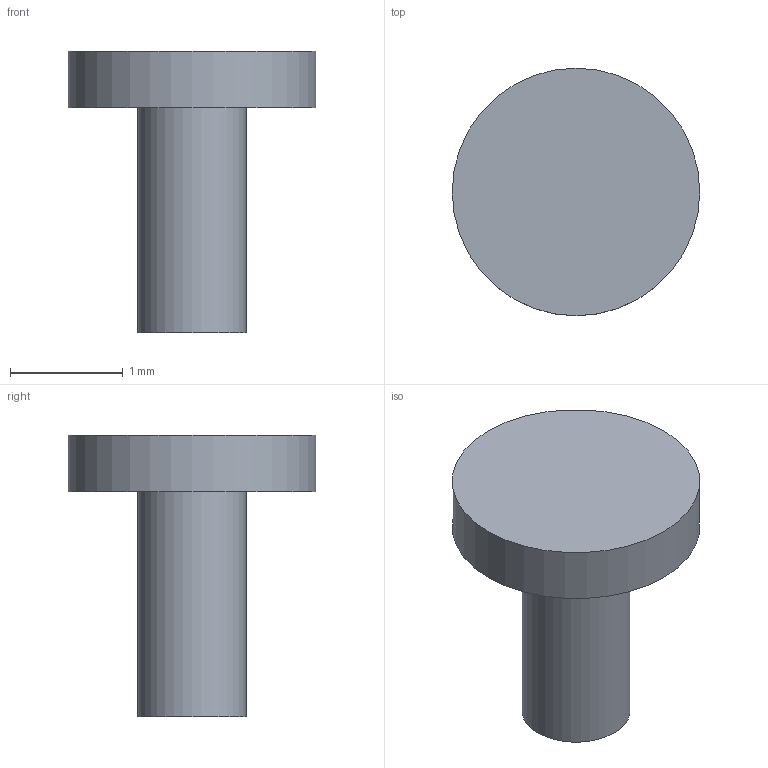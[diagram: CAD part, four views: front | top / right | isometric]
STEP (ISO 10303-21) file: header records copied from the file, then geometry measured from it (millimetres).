
FILE_DESCRIPTION(('Open CASCADE Model'),'2;1');
FILE_NAME('Open CASCADE Shape Model','2026-09-24T17:43:02',('Author'),( 'Open CASCADE'),'Open CASCADE STEP processor 7.8','Open CASCADE 7.8' ,'Unknown');
FILE_SCHEMA(('AUTOMOTIVE_DESIGN { 1 0 10303 214 1 1 1 1 }'));
Length unit declared in the file: millimetre
Products named in the file (1): Open CASCADE STEP translator 7.8 27
Bounding box: 2.2 x 2.2 x 2.5 mm (x, y, z)
Volume: 3.3 mm3; surface area: 17.1 mm2
Topology: 1 solids, 1 shells, 5 faces, 6 edges, 4 vertices
Faces by surface type: plane 3, cylinder 2
Full cylindrical faces by diameter (mm): 0.96 x1, 2.2 x1
Entity records: 192 total; most frequent: DIRECTION 34, CARTESIAN_POINT 28, ORIENTED_EDGE 12, PCURVE 12, DEFINITIONAL_REPRESENTATION 12, AXIS2_PLACEMENT_3D 10, LINE 10, VECTOR 10
